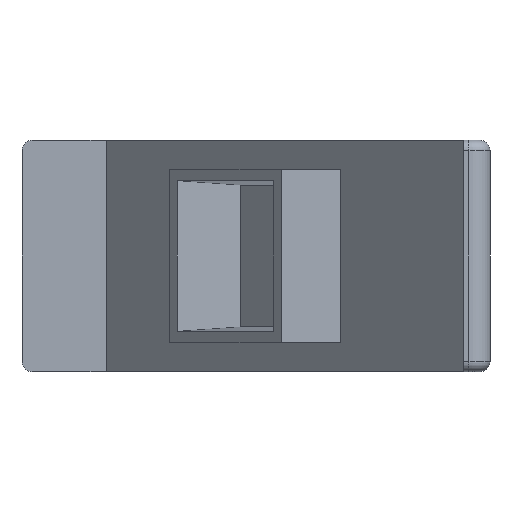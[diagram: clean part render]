
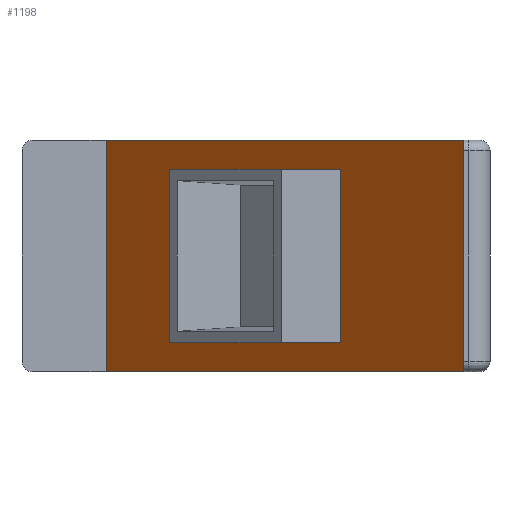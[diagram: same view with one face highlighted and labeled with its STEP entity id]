
A CAD part, front view. The second image highlights one B-rep face of the part: STEP entity #1198.
In plain terms, the highlighted planar face has unit normal (-0.707, -0.707, 0).
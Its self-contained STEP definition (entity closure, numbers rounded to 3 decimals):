
#385 = CARTESIAN_POINT ( 'NONE',  ( 8., 42., -11. ) ) ;
#700 = CARTESIAN_POINT ( 'NONE',  ( 19.697, 30.303, -8.25 ) ) ;
#701 = LINE ( 'NONE', #700, #729 ) ;
#727 = CARTESIAN_POINT ( 'NONE',  ( 42., 8., 11. ) ) ;
#728 = DIRECTION ( 'NONE',  ( 0.707, -0.707, 0. ) ) ;
#729 = VECTOR ( 'NONE', #728, 1000. ) ;
#825 = DIRECTION ( 'NONE',  ( -0.707, 0.707, 0. ) ) ;
#826 = VECTOR ( 'NONE', #825, 1000. ) ;
#830 = CARTESIAN_POINT ( 'NONE',  ( 19.697, 30.303, 8.25 ) ) ;
#831 = LINE ( 'NONE', #830, #826 ) ;
#838 = CARTESIAN_POINT ( 'NONE',  ( 19.697, 30.303, -8.25 ) ) ;
#841 = CARTESIAN_POINT ( 'NONE',  ( 30.303, 19.697, -8.25 ) ) ;
#842 = DIRECTION ( 'NONE',  ( 0., 0., 1. ) ) ;
#843 = VECTOR ( 'NONE', #842, 1000. ) ;
#845 = LINE ( 'NONE', #851, #850 ) ;
#846 = DIRECTION ( 'NONE',  ( 0., 0., -1. ) ) ;
#847 = VECTOR ( 'NONE', #846, 1000. ) ;
#849 = DIRECTION ( 'NONE',  ( 0.707, -0.707, 0. ) ) ;
#850 = VECTOR ( 'NONE', #849, 1000. ) ;
#851 = CARTESIAN_POINT ( 'NONE',  ( 8., 42., 11. ) ) ;
#852 = DIRECTION ( 'NONE',  ( 0., 0., -1. ) ) ;
#853 = VECTOR ( 'NONE', #852, 1000. ) ;
#854 = CARTESIAN_POINT ( 'NONE',  ( 42., 8., 11. ) ) ;
#855 = LINE ( 'NONE', #854, #853 ) ;
#856 = DIRECTION ( 'NONE',  ( -0.707, 0.707, 0. ) ) ;
#857 = DIRECTION ( 'NONE',  ( 0.707, 0.707, 0. ) ) ;
#859 = AXIS2_PLACEMENT_3D ( 'NONE', #898, #857, #856 ) ;
#860 = DIRECTION ( 'NONE',  ( 0., 0., -1. ) ) ;
#861 = VECTOR ( 'NONE', #860, 1000. ) ;
#862 = PLANE ( 'NONE',  #859 ) ;
#864 = FACE_OUTER_BOUND ( 'NONE', #1178, .T. ) ;
#865 = CARTESIAN_POINT ( 'NONE',  ( 8., 42., 11. ) ) ;
#866 = FACE_BOUND ( 'NONE', #1250, .T. ) ;
#869 = CARTESIAN_POINT ( 'NONE',  ( 8., 42., 11. ) ) ;
#876 = CARTESIAN_POINT ( 'NONE',  ( 30.303, 19.697, 8.25 ) ) ;
#892 = LINE ( 'NONE', #865, #861 ) ;
#898 = CARTESIAN_POINT ( 'NONE',  ( 8., 42., 11. ) ) ;
#906 = LINE ( 'NONE', #912, #847 ) ;
#912 = CARTESIAN_POINT ( 'NONE',  ( 19.697, 30.303, 6.75 ) ) ;
#917 = CARTESIAN_POINT ( 'NONE',  ( 30.303, 19.697, 6.75 ) ) ;
#918 = LINE ( 'NONE', #917, #843 ) ;
#925 = CARTESIAN_POINT ( 'NONE',  ( 19.697, 30.303, 8.25 ) ) ;
#933 = DIRECTION ( 'NONE',  ( 0.707, -0.707, 0. ) ) ;
#934 = VECTOR ( 'NONE', #933, 1000. ) ;
#935 = CARTESIAN_POINT ( 'NONE',  ( 8., 42., -11. ) ) ;
#939 = CARTESIAN_POINT ( 'NONE',  ( 42., 8., -11. ) ) ;
#940 = LINE ( 'NONE', #935, #934 ) ;
#1151 = EDGE_CURVE ( 'NONE', #1230, #1231, #701, .T. ) ;
#1154 = VERTEX_POINT ( 'NONE', #727 ) ;
#1158 = VERTEX_POINT ( 'NONE', #385 ) ;
#1174 = VERTEX_POINT ( 'NONE', #939 ) ;
#1178 = EDGE_LOOP ( 'NONE', ( #1200, #1238, #1242, #1201 ) ) ;
#1179 = EDGE_CURVE ( 'NONE', #1158, #1174, #940, .T. ) ;
#1190 = ORIENTED_EDGE ( 'NONE', *, *, #1221, .F. ) ;
#1193 = VERTEX_POINT ( 'NONE', #876 ) ;
#1197 = EDGE_CURVE ( 'NONE', #1209, #1158, #892, .T. ) ;
#1198 = ADVANCED_FACE ( 'NONE', ( #864, #866 ), #862, .F. ) ;
#1199 = EDGE_CURVE ( 'NONE', #1154, #1174, #855, .T. ) ;
#1200 = ORIENTED_EDGE ( 'NONE', *, *, #1179, .T. ) ;
#1201 = ORIENTED_EDGE ( 'NONE', *, *, #1197, .T. ) ;
#1206 = EDGE_CURVE ( 'NONE', #1209, #1154, #845, .T. ) ;
#1209 = VERTEX_POINT ( 'NONE', #869 ) ;
#1212 = ORIENTED_EDGE ( 'NONE', *, *, #1213, .F. ) ;
#1213 = EDGE_CURVE ( 'NONE', #1229, #1230, #906, .T. ) ;
#1221 = EDGE_CURVE ( 'NONE', #1231, #1193, #918, .T. ) ;
#1229 = VERTEX_POINT ( 'NONE', #925 ) ;
#1230 = VERTEX_POINT ( 'NONE', #838 ) ;
#1231 = VERTEX_POINT ( 'NONE', #841 ) ;
#1233 = ORIENTED_EDGE ( 'NONE', *, *, #1151, .F. ) ;
#1235 = ORIENTED_EDGE ( 'NONE', *, *, #1236, .F. ) ;
#1236 = EDGE_CURVE ( 'NONE', #1193, #1229, #831, .T. ) ;
#1238 = ORIENTED_EDGE ( 'NONE', *, *, #1199, .F. ) ;
#1242 = ORIENTED_EDGE ( 'NONE', *, *, #1206, .F. ) ;
#1250 = EDGE_LOOP ( 'NONE', ( #1233, #1212, #1235, #1190 ) ) ;
